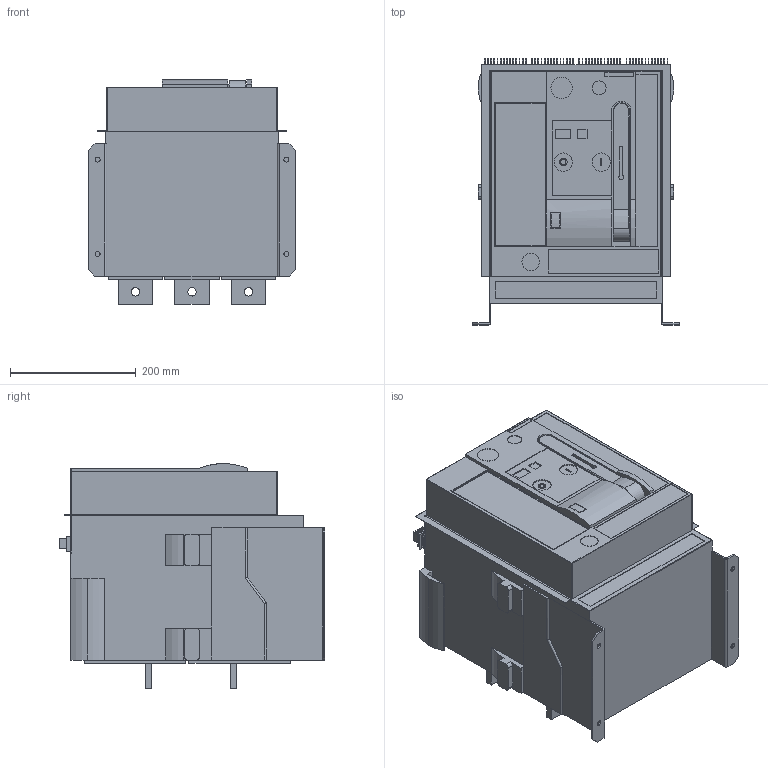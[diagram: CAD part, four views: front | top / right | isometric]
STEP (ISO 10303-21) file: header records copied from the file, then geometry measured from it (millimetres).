
FILE_DESCRIPTION (( 'STEP AP214' ), '1' );
FILE_NAME ('ARION_WL1110-___32.step', '2012-01-10T14:25:41', ( 'Radek Veselý' ), ( 'Siemens and Partners' ), 'SwSTEP 2.0', 'SolidWorks 2006303', '' );
FILE_SCHEMA (( 'AUTOMOTIVE_DESIGN' ));
Length unit declared in the file: millimetre
Products named in the file (1): ARION_WL1110-___32
Bounding box: 328 x 422.4 x 357 mm (x, y, z)
Volume: 30836106.7 mm3; surface area: 961800.8 mm2
Topology: 4 solids, 4 shells, 1153 faces, 2844 edges, 1877 vertices
Faces by surface type: plane 936, cylinder 209, sphere 4, torus 4
Entity records: 46448 total; most frequent: CARTESIAN_POINT 5937, ORIENTED_EDGE 5680, DIRECTION 5539, EDGE_CURVE 2840, VECTOR 2421, LINE 2421, VERTEX_POINT 1877, AXIS2_PLACEMENT_3D 1559
